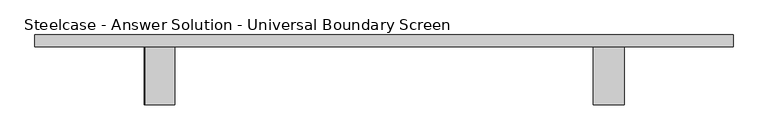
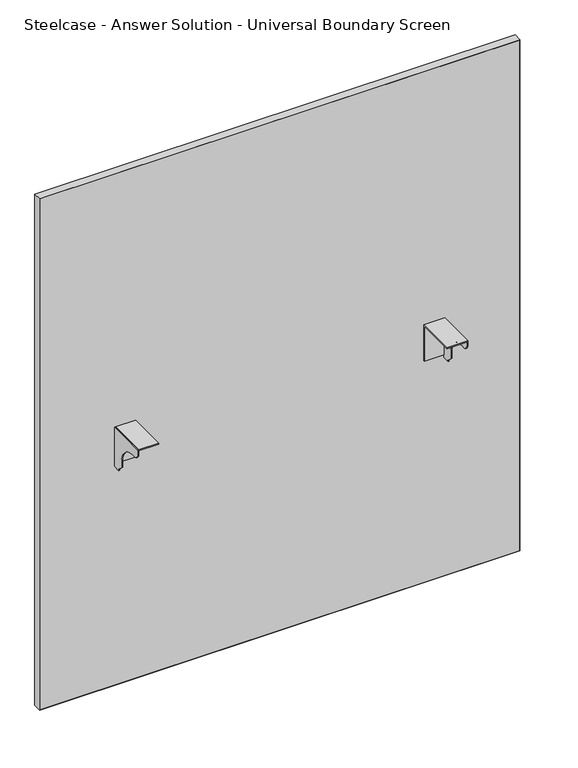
"""IFC4 building model written with IfcOpenShell, lengths in millimetres: furniture geometry, Steelcase - Answer Solution - Universal Boundary Screen : 54H x 48W."""

from ifc_helpers import new_model, si_unit, point, frame, frame_2d, origin, place, context, project, spatial, polyline, circle_curve, trimmed, segment, composite_curve, outline, extrude, source, transform, mapped, element, save


def steelcase_answer_solution_universal_boundary_screen_f9c6731c(model_context):
    return source(origin(), model_context, "Body", "SweptSolid", [
        extrude(outline(polyline([(-103.1670434, 689.3558876), (-103.1670434, 692.1499758), (-1.5668826, 692.1499758), (-1.5668826, 595.5029317), (-4.1079736, 595.5029317), (-4.1079736, 689.3558876), (-103.1670434, 689.3558876)])), frame((895.8336711, 0.0, 0.0), z_axis=(1.0, 0.0, 0.0), x_axis=(0.0, 1.0, 0.0)), (0.0, 0.0, 1.0), 53.3444116),
        extrude(outline(composite_curve([segment(polyline([(-103.1670434, 679.2814802), (-103.1670434, 692.1499758), (-1.5668826, 692.1499758), (-1.5668826, 586.9634093), (-19.8232934, 586.9634093), (-19.8232934, 589.7574248), (-32.0458032, 601.9799346), (-32.0458032, 615.7814802)]), True, "CONTINUOUS"), segment(trimmed(circle_curve(frame_2d((-82.8458032, 615.7814802)), 50.8), [point((-32.0458032, 615.7814802))], [point((-82.8458032, 666.5814802))], True, "CARTESIAN"), True, "CONTINUOUS"), segment(polyline([(-82.8458032, 666.5814802), (-90.4670434, 666.5814802)]), True, "CONTINUOUS"), segment(trimmed(circle_curve(frame_2d((-90.4670434, 679.2814802)), 12.7), [point((-90.4670434, 666.5814802))], [point((-103.1670434, 679.2814802))], False, "CARTESIAN"), True, "CONTINUOUS")], self_intersect=False)), frame((946.6328959, 0.0, 0.0), z_axis=(1.0, 0.0, 0.0), x_axis=(0.0, 1.0, 0.0)), (0.0, 0.0, 1.0), 2.5451868),
        extrude(outline(polyline([(-103.1670434, 689.3558876), (-103.1670434, 692.1499758), (-1.5668826, 692.1499758), (-1.5668826, 595.5029317), (-4.1079736, 595.5029317), (-4.1079736, 689.3558876), (-103.1670434, 689.3558876)])), frame((113.5232694, 0.0, 0.0), z_axis=(1.0, 0.0, 0.0), x_axis=(0.0, 1.0, 0.0)), (0.0, 0.0, 1.0), 50.7992249),
        extrude(outline(composite_curve([segment(polyline([(-103.1670434, 679.2814802), (-103.1670434, 692.1499758), (-1.5668826, 692.1499758), (-1.5668826, 586.9634093), (-19.8232934, 586.9634093), (-19.8232934, 589.7574248), (-32.0458032, 601.9799346), (-32.0458032, 615.7814802)]), True, "CONTINUOUS"), segment(trimmed(circle_curve(frame_2d((-82.8458032, 615.7814802)), 50.8), [point((-32.0458032, 615.7814802))], [point((-82.8458032, 666.5814802))], True, "CARTESIAN"), True, "CONTINUOUS"), segment(polyline([(-82.8458032, 666.5814802), (-90.4670434, 666.5814802)]), True, "CONTINUOUS"), segment(trimmed(circle_curve(frame_2d((-90.4670434, 679.2814802)), 12.7), [point((-90.4670434, 666.5814802))], [point((-103.1670434, 679.2814802))], False, "CARTESIAN"), True, "CONTINUOUS")], self_intersect=False)), frame((110.9780827, 0.0, 0.0), z_axis=(1.0, 0.0, 0.0), x_axis=(0.0, 1.0, 0.0)), (0.0, 0.0, 1.0), 2.5451868),
        extrude(outline(polyline([(-78.5293422, 18.9055112), (1138.6855076, 18.9055112), (1138.6855076, -1.5668826), (-78.5293422, -1.5668826), (-78.5293422, 18.9055112)])), frame((0.0, 0.0, 1.016), z_axis=(0.0, 0.0, 1.0), x_axis=(1.0, 0.0, 0.0)), (0.0, 0.0, 1.0), 1369.5914249),
        extrude(outline(polyline([(1371.6, 1139.6780827), (1371.6, -79.5219173), (0.0, -79.5219173), (0.0, 1139.6780827), (1371.6, 1139.6780827)]), holes=[polyline([(1370.6074249, 1138.6855076), (1.016, 1138.6855076), (1.016, -78.5293422), (1370.6074249, -78.5293422), (1370.6074249, 1138.6855076)])]), frame((0.0, -1.5668826, 0.0), z_axis=(0.0, 1.0, 0.0), x_axis=(0.0, 0.0, 1.0)), (0.0, 0.0, 1.0), 20.4723938),
    ])


if __name__ == "__main__":
    model = new_model("IFC4")
    model_context = context("Model", 3, world=origin())
    ifc_project = project(units=[si_unit("LENGTHUNIT", "METRE", prefix="MILLI")], contexts=[model_context])
    site = spatial("IfcSite", under=ifc_project)
    building = spatial("IfcBuilding", under=site)
    placement = place(None, origin())
    steelcase_answer_solution_universal_boundary_screen_shape = steelcase_answer_solution_universal_boundary_screen_f9c6731c(model_context)
    element("IfcFurniture", 1, ObjectType="Steelcase - Answer Solution - Universal Boundary Screen : 54H x 48W", at=placement, inside=building, context=model_context, shape_type="MappedRepresentation", body=[
        mapped(steelcase_answer_solution_universal_boundary_screen_shape, transform((0.0, 0.0, 0.0), x_axis=(1.0, 0.0, 0.0), y_axis=(0.0, 1.0, 0.0), z_axis=(0.0, 0.0, 1.0))),
    ])
    save(model, "model.ifc")
